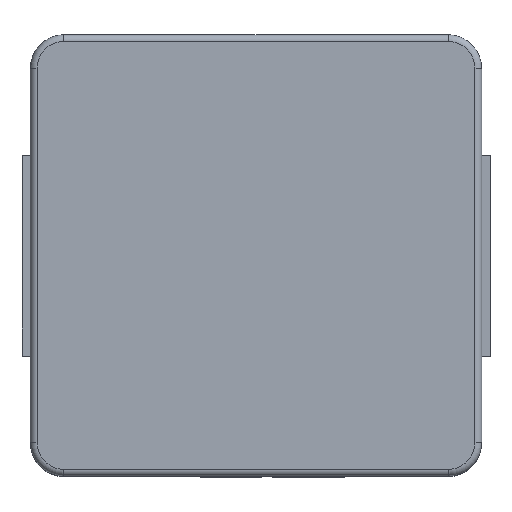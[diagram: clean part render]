
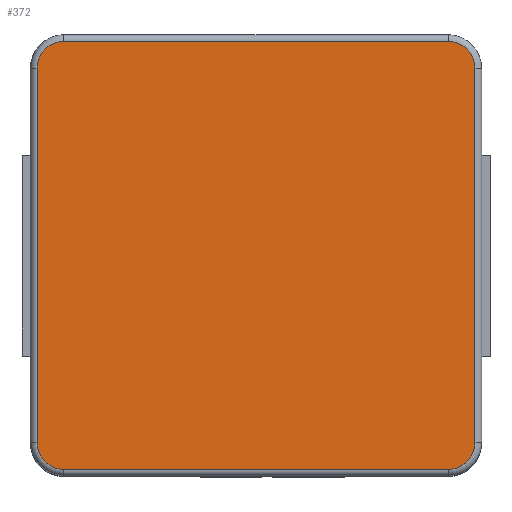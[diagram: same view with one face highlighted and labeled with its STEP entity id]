
A CAD part, top view. The second image highlights one B-rep face of the part: STEP entity #372.
In plain terms, the highlighted planar face has unit normal (0, 0, 1).
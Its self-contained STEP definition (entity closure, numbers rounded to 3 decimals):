
#372 = ADVANCED_FACE('',(#373),#443,.T.);
#373 = FACE_BOUND('',#374,.T.);
#374 = EDGE_LOOP('',(#375,#385,#394,#402,#411,#419,#428,#436));
#375 = ORIENTED_EDGE('',*,*,#376,.T.);
#376 = EDGE_CURVE('',#377,#379,#381,.T.);
#377 = VERTEX_POINT('',#378);
#378 = CARTESIAN_POINT('',(2.875,3.205,4.8));
#379 = VERTEX_POINT('',#380);
#380 = CARTESIAN_POINT('',(-2.875,3.205,4.8));
#381 = LINE('',#382,#383);
#382 = CARTESIAN_POINT('',(-2.875,3.205,4.8));
#383 = VECTOR('',#384,1.);
#384 = DIRECTION('',(-1.,0.,0.));
#385 = ORIENTED_EDGE('',*,*,#386,.T.);
#386 = EDGE_CURVE('',#379,#387,#389,.T.);
#387 = VERTEX_POINT('',#388);
#388 = CARTESIAN_POINT('',(-3.275,2.805,4.8));
#389 = CIRCLE('',#390,0.4);
#390 = AXIS2_PLACEMENT_3D('',#391,#392,#393);
#391 = CARTESIAN_POINT('',(-2.875,2.805,4.8));
#392 = DIRECTION('',(0.,0.,1.));
#393 = DIRECTION('',(1.,0.,-0.));
#394 = ORIENTED_EDGE('',*,*,#395,.T.);
#395 = EDGE_CURVE('',#387,#396,#398,.T.);
#396 = VERTEX_POINT('',#397);
#397 = CARTESIAN_POINT('',(-3.275,-2.795,4.8));
#398 = LINE('',#399,#400);
#399 = CARTESIAN_POINT('',(-3.275,-2.795,4.8));
#400 = VECTOR('',#401,1.);
#401 = DIRECTION('',(0.,-1.,0.));
#402 = ORIENTED_EDGE('',*,*,#403,.T.);
#403 = EDGE_CURVE('',#396,#404,#406,.T.);
#404 = VERTEX_POINT('',#405);
#405 = CARTESIAN_POINT('',(-2.875,-3.195,4.8));
#406 = CIRCLE('',#407,0.4);
#407 = AXIS2_PLACEMENT_3D('',#408,#409,#410);
#408 = CARTESIAN_POINT('',(-2.875,-2.795,4.8));
#409 = DIRECTION('',(0.,0.,1.));
#410 = DIRECTION('',(1.,0.,-0.));
#411 = ORIENTED_EDGE('',*,*,#412,.T.);
#412 = EDGE_CURVE('',#404,#413,#415,.T.);
#413 = VERTEX_POINT('',#414);
#414 = CARTESIAN_POINT('',(2.875,-3.195,4.8));
#415 = LINE('',#416,#417);
#416 = CARTESIAN_POINT('',(2.875,-3.195,4.8));
#417 = VECTOR('',#418,1.);
#418 = DIRECTION('',(1.,0.,0.));
#419 = ORIENTED_EDGE('',*,*,#420,.T.);
#420 = EDGE_CURVE('',#413,#421,#423,.T.);
#421 = VERTEX_POINT('',#422);
#422 = CARTESIAN_POINT('',(3.275,-2.795,4.8));
#423 = CIRCLE('',#424,0.4);
#424 = AXIS2_PLACEMENT_3D('',#425,#426,#427);
#425 = CARTESIAN_POINT('',(2.875,-2.795,4.8));
#426 = DIRECTION('',(0.,0.,1.));
#427 = DIRECTION('',(1.,0.,-0.));
#428 = ORIENTED_EDGE('',*,*,#429,.T.);
#429 = EDGE_CURVE('',#421,#430,#432,.T.);
#430 = VERTEX_POINT('',#431);
#431 = CARTESIAN_POINT('',(3.275,2.805,4.8));
#432 = LINE('',#433,#434);
#433 = CARTESIAN_POINT('',(3.275,2.805,4.8));
#434 = VECTOR('',#435,1.);
#435 = DIRECTION('',(0.,1.,0.));
#436 = ORIENTED_EDGE('',*,*,#437,.T.);
#437 = EDGE_CURVE('',#430,#377,#438,.T.);
#438 = CIRCLE('',#439,0.4);
#439 = AXIS2_PLACEMENT_3D('',#440,#441,#442);
#440 = CARTESIAN_POINT('',(2.875,2.805,4.8));
#441 = DIRECTION('',(0.,0.,1.));
#442 = DIRECTION('',(1.,0.,-0.));
#443 = PLANE('',#444);
#444 = AXIS2_PLACEMENT_3D('',#445,#446,#447);
#445 = CARTESIAN_POINT('',(0.,0.005,4.8));
#446 = DIRECTION('',(0.,0.,1.));
#447 = DIRECTION('',(1.,0.,-0.));
